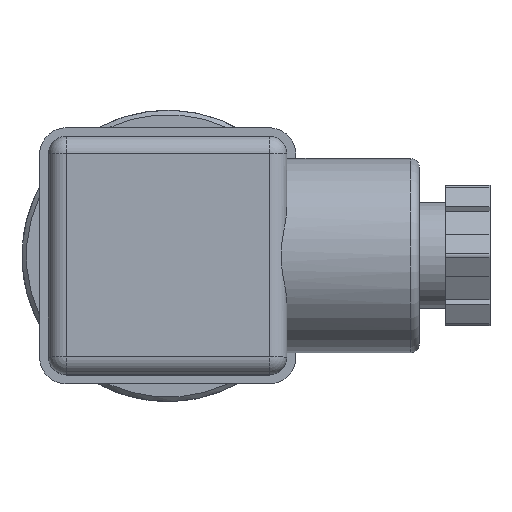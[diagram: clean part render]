
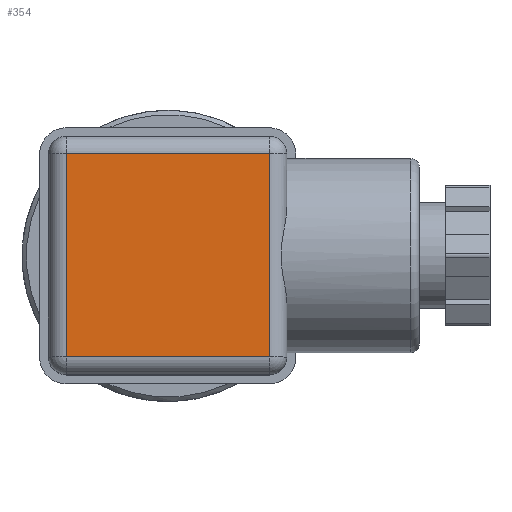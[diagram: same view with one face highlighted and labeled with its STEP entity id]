
A CAD part, top view. The second image highlights one B-rep face of the part: STEP entity #354.
In plain terms, the highlighted planar face has unit normal (0, 0, 1).
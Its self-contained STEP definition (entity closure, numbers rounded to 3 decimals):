
#354=ADVANCED_FACE('',(#546),#472,.T.);
#472=PLANE('',#2378);
#546=FACE_OUTER_BOUND('',#653,.T.);
#653=EDGE_LOOP('',(#1121,#1122,#1123,#1124));
#1121=ORIENTED_EDGE('',*,*,#1820,.T.);
#1122=ORIENTED_EDGE('',*,*,#1821,.T.);
#1123=ORIENTED_EDGE('',*,*,#1822,.T.);
#1124=ORIENTED_EDGE('',*,*,#1823,.T.);
#1562=VERTEX_POINT('',#3358);
#1563=VERTEX_POINT('',#3359);
#1564=VERTEX_POINT('',#3361);
#1565=VERTEX_POINT('',#3363);
#1820=EDGE_CURVE('',#1562,#1563,#2103,.T.);
#1821=EDGE_CURVE('',#1563,#1564,#2104,.T.);
#1822=EDGE_CURVE('',#1564,#1565,#2105,.T.);
#1823=EDGE_CURVE('',#1565,#1562,#2106,.T.);
#2103=LINE('',#3357,#2261);
#2104=LINE('',#3360,#2262);
#2105=LINE('',#3362,#2263);
#2106=LINE('',#3364,#2264);
#2261=VECTOR('',#2782,1.);
#2262=VECTOR('',#2783,1.);
#2263=VECTOR('',#2784,1.);
#2264=VECTOR('',#2785,1.);
#2378=AXIS2_PLACEMENT_3D('',#3365,#2786,#2787);
#2782=DIRECTION('',(-1.,0.,0.));
#2783=DIRECTION('',(0.,-1.,0.));
#2784=DIRECTION('',(1.,0.,0.));
#2785=DIRECTION('',(0.,1.,0.));
#2786=DIRECTION('',(0.,0.,1.));
#2787=DIRECTION('',(1.,0.,0.));
#3357=CARTESIAN_POINT('',(0.,11.5,79.5));
#3358=CARTESIAN_POINT('',(11.5,11.5,79.5));
#3359=CARTESIAN_POINT('',(-11.5,11.5,79.5));
#3360=CARTESIAN_POINT('',(-11.5,0.,79.5));
#3361=CARTESIAN_POINT('',(-11.5,-11.5,79.5));
#3362=CARTESIAN_POINT('',(0.,-11.5,79.5));
#3363=CARTESIAN_POINT('',(11.5,-11.5,79.5));
#3364=CARTESIAN_POINT('',(11.5,0.,79.5));
#3365=CARTESIAN_POINT('',(0.,0.,79.5));
